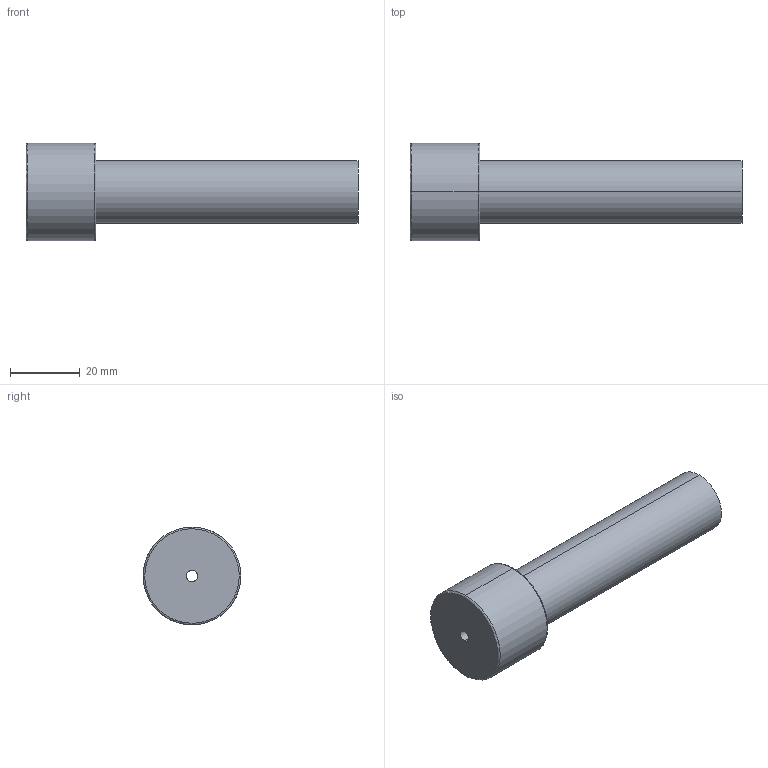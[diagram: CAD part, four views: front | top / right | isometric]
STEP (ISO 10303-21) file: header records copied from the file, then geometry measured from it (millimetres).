
FILE_DESCRIPTION(('CATIA V5 STEP Exchange'),'2;1');
FILE_NAME('C:\Users\Utente\Desktop\IO LAVORO\3D X SITO CF\X SITO\PLASTICA\3D files 367\367-18X95.stp','2021-03-24T15:44:51+00:00',('none'),('none'),'CATIA Version 5 Release 20 GA (IN-10)','CATIA V5 STEP AP203','none');
FILE_SCHEMA(('CONFIG_CONTROL_DESIGN'));
Length unit declared in the file: millimetre
Products named in the file (1): 367-18X95
Bounding box: 95 x 28 x 28 mm (x, y, z)
Volume: 28737.6 mm3; surface area: 8859.6 mm2
Topology: 1 solids, 1 shells, 13 faces, 42 edges, 32 vertices
Faces by surface type: torus 4, cylinder 4, plane 3, cone 2
Entity records: 608 total; most frequent: CARTESIAN_POINT 194, ORIENTED_EDGE 84, DIRECTION 60, AXIS2_PLACEMENT_3D 42, EDGE_CURVE 42, VERTEX_POINT 32, CIRCLE 28, EDGE_LOOP 16
